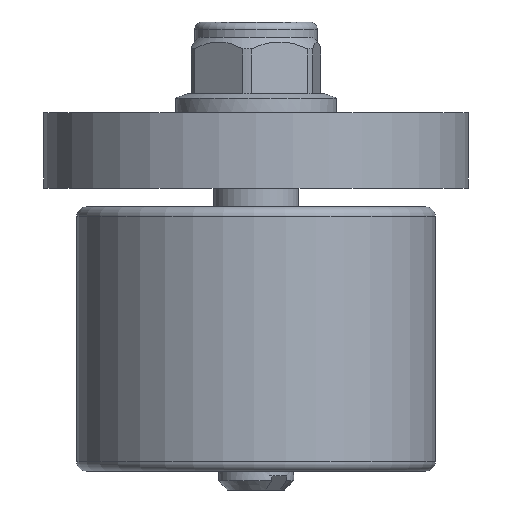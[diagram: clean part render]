
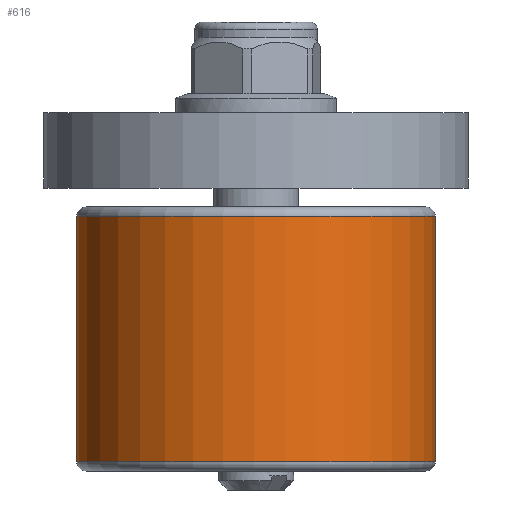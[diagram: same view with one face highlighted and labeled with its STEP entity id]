
A CAD part, front view. The second image highlights one B-rep face of the part: STEP entity #616.
In plain terms, the highlighted cylindrical face has radius 19 mm (diameter 38 mm), a full revolution.
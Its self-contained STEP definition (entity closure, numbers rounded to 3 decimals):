
#248 = DIRECTION ( 'NONE',  ( 0., -1., 0. ) ) ;
#261 = FACE_OUTER_BOUND ( 'NONE', #1468, .T. ) ;
#273 = CARTESIAN_POINT ( 'NONE',  ( 44., -19., 0. ) ) ;
#325 = ORIENTED_EDGE ( 'NONE', *, *, #1750, .T. ) ;
#453 = DIRECTION ( 'NONE',  ( 0., -1., 0. ) ) ;
#616 = ADVANCED_FACE ( 'NONE', ( #2166, #261 ), #3099, .T. ) ;
#653 = VERTEX_POINT ( 'NONE', #1370 ) ;
#683 = DIRECTION ( 'NONE',  ( -1., 0., 0. ) ) ;
#1039 = CARTESIAN_POINT ( 'NONE',  ( 44., 0., 0. ) ) ;
#1248 = DIRECTION ( 'NONE',  ( 1., 0., 0. ) ) ;
#1370 = CARTESIAN_POINT ( 'NONE',  ( 18., 19., 0. ) ) ;
#1468 = EDGE_LOOP ( 'NONE', ( #1977 ) ) ;
#1517 = EDGE_CURVE ( 'NONE', #653, #653, #2245, .T. ) ;
#1722 = CARTESIAN_POINT ( 'NONE',  ( 18., 0., 0. ) ) ;
#1750 = EDGE_CURVE ( 'NONE', #2179, #2179, #2300, .T. ) ;
#1877 = CARTESIAN_POINT ( 'NONE',  ( 0., 0., 0. ) ) ;
#1977 = ORIENTED_EDGE ( 'NONE', *, *, #1517, .T. ) ;
#1989 = AXIS2_PLACEMENT_3D ( 'NONE', #1039, #2380, #248 ) ;
#2166 = FACE_OUTER_BOUND ( 'NONE', #2235, .T. ) ;
#2179 = VERTEX_POINT ( 'NONE', #273 ) ;
#2209 = DIRECTION ( 'NONE',  ( 0., 1., 0. ) ) ;
#2235 = EDGE_LOOP ( 'NONE', ( #325 ) ) ;
#2245 = CIRCLE ( 'NONE', #2953, 19. ) ;
#2300 = CIRCLE ( 'NONE', #1989, 19. ) ;
#2380 = DIRECTION ( 'NONE',  ( -1., 0., 0. ) ) ;
#2649 = AXIS2_PLACEMENT_3D ( 'NONE', #1877, #683, #453 ) ;
#2953 = AXIS2_PLACEMENT_3D ( 'NONE', #1722, #1248, #2209 ) ;
#3099 = CYLINDRICAL_SURFACE ( 'NONE', #2649, 19. ) ;
